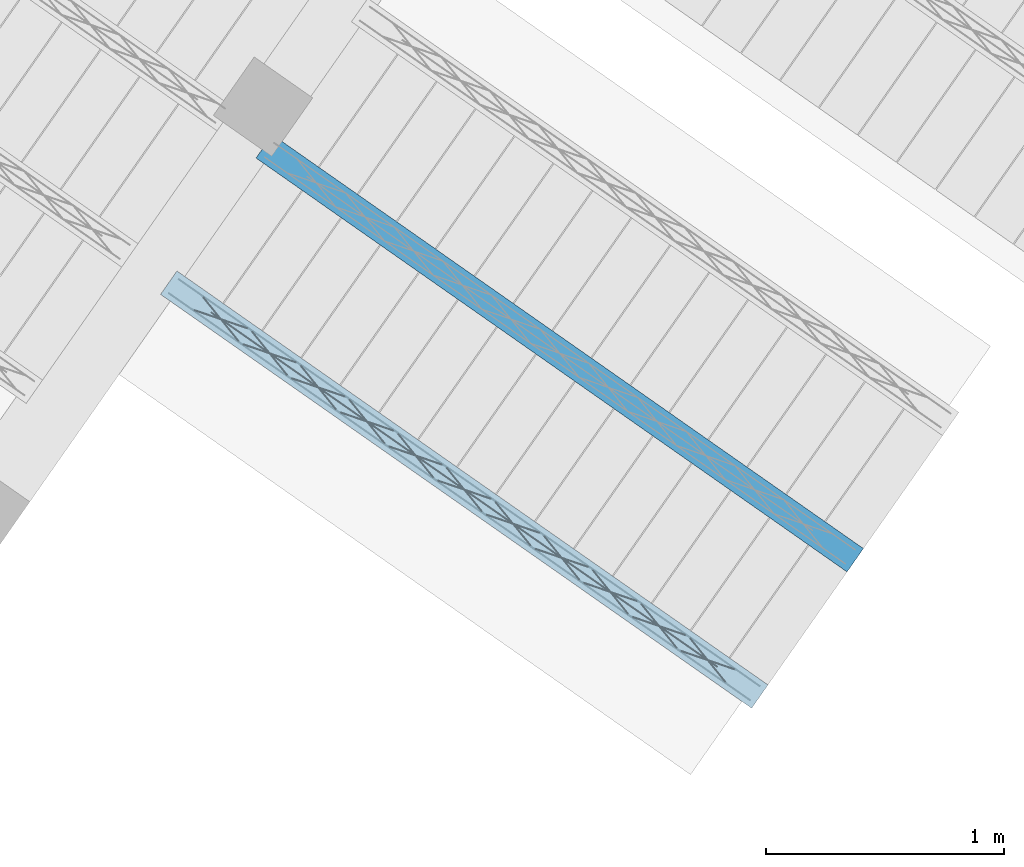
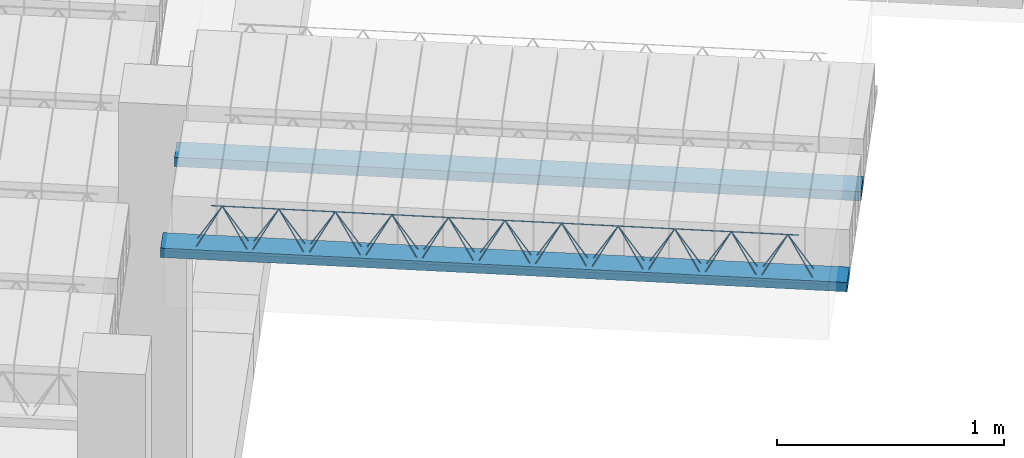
# One storey, part 5 of 80: 2 beams.
"""IFC2X3 building model written with IfcOpenShell, lengths in metres."""

from ifc_helpers import new_model, entity, si_unit, converted_unit, derived_unit, direction, frame, frame_2d, origin, origin_2d_with_axis, place, context, subcontext, project, spatial, rectangle, circle, extrude, material, type_object, element, save


model = new_model("IFC2X3")

# Units and contexts
model_context = context("Model", 3, precision=1e-05, world=origin(), true_north=direction((6.123031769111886e-17, 1.0)))
body_context = subcontext(model_context, "Body", "Model", "MODEL_VIEW")
ifc_project = project(units=[si_unit("LENGTHUNIT", "METRE"), si_unit("AREAUNIT", "SQUARE_METRE"), si_unit("VOLUMEUNIT", "CUBIC_METRE"), converted_unit("PLANEANGLEUNIT", "DEGREE", entity("IfcPlaneAngleMeasure", 0.017453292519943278), si_unit("PLANEANGLEUNIT", "RADIAN"), dimensions=[0, 0, 0, 0, 0, 0, 0]), si_unit("MASSUNIT", "GRAM", prefix="KILO"), derived_unit("MASSDENSITYUNIT", [(si_unit("MASSUNIT", "GRAM", prefix="KILO"), 1), (si_unit("LENGTHUNIT", "METRE"), -3)]), derived_unit("IONCONCENTRATIONUNIT", [(si_unit("MASSUNIT", "GRAM", prefix="KILO"), 1), (si_unit("LENGTHUNIT", "METRE"), -3)]), derived_unit("MOMENTOFINERTIAUNIT", [(si_unit("LENGTHUNIT", "METRE"), 4)]), si_unit("TIMEUNIT", "SECOND"), si_unit("FREQUENCYUNIT", "HERTZ"), si_unit("THERMODYNAMICTEMPERATUREUNIT", "DEGREE_CELSIUS"), derived_unit("THERMALTRANSMITTANCEUNIT", [(si_unit("MASSUNIT", "GRAM", prefix="KILO"), 1), (si_unit("THERMODYNAMICTEMPERATUREUNIT", "KELVIN"), -1), (si_unit("TIMEUNIT", "SECOND"), -3)]), derived_unit("THERMALCONDUCTANCEUNIT", [(si_unit("MASSUNIT", "GRAM", prefix="KILO"), 1), (si_unit("THERMODYNAMICTEMPERATUREUNIT", "KELVIN"), -1), (si_unit("TIMEUNIT", "SECOND"), -3), (si_unit("LENGTHUNIT", "METRE"), 1)]), derived_unit("VOLUMETRICFLOWRATEUNIT", [(si_unit("LENGTHUNIT", "METRE", prefix="DECI"), 3), (si_unit("TIMEUNIT", "SECOND"), -1)]), derived_unit("MASSFLOWRATEUNIT", [(si_unit("MASSUNIT", "GRAM", prefix="KILO"), 1), (si_unit("TIMEUNIT", "SECOND"), -1)]), derived_unit("ROTATIONALFREQUENCYUNIT", [(si_unit("TIMEUNIT", "SECOND"), -1)]), si_unit("ELECTRICCURRENTUNIT", "AMPERE"), si_unit("ELECTRICVOLTAGEUNIT", "VOLT"), si_unit("POWERUNIT", "WATT"), si_unit("FORCEUNIT", "NEWTON", prefix="KILO"), si_unit("ILLUMINANCEUNIT", "LUX"), si_unit("LUMINOUSFLUXUNIT", "LUMEN"), si_unit("LUMINOUSINTENSITYUNIT", "CANDELA"), si_unit("ENERGYUNIT", "JOULE"), derived_unit("USERDEFINED", [(si_unit("MASSUNIT", "GRAM", prefix="KILO"), -1), (si_unit("LENGTHUNIT", "METRE"), -2), (si_unit("TIMEUNIT", "SECOND"), 3), (si_unit("LUMINOUSFLUXUNIT", "LUMEN"), 1)]), derived_unit("USERDEFINED", [(si_unit("MASSUNIT", "GRAM", prefix="KILO"), 1), (si_unit("TIMEUNIT", "SECOND"), -3), (si_unit("LENGTHUNIT", "METRE"), 3), (si_unit("ELECTRICCURRENTUNIT", "AMPERE"), -2)]), derived_unit("SOUNDPOWERUNIT", [(si_unit("MASSUNIT", "GRAM", prefix="KILO"), 1), (si_unit("TIMEUNIT", "SECOND"), -3), (si_unit("LENGTHUNIT", "METRE"), 2)]), derived_unit("SOUNDPRESSUREUNIT", [(si_unit("MASSUNIT", "GRAM", prefix="KILO"), 1), (si_unit("LENGTHUNIT", "METRE"), -1), (si_unit("TIMEUNIT", "SECOND"), -2)]), derived_unit("LINEARVELOCITYUNIT", [(si_unit("LENGTHUNIT", "METRE"), 1), (si_unit("TIMEUNIT", "SECOND"), -1)]), si_unit("PRESSUREUNIT", "PASCAL"), derived_unit("USERDEFINED", [(si_unit("MASSUNIT", "GRAM", prefix="KILO"), 1), (si_unit("LENGTHUNIT", "METRE"), -2), (si_unit("TIMEUNIT", "SECOND"), -2)]), derived_unit("LINEARFORCEUNIT", [(si_unit("MASSUNIT", "GRAM", prefix="KILO"), 1), (si_unit("TIMEUNIT", "SECOND"), -2)]), derived_unit("PLANARFORCEUNIT", [(si_unit("MASSUNIT", "GRAM", prefix="KILO"), 1), (si_unit("LENGTHUNIT", "METRE"), -1), (si_unit("TIMEUNIT", "SECOND"), -2)]), derived_unit("SPECIFICHEATCAPACITYUNIT", [(si_unit("THERMODYNAMICTEMPERATUREUNIT", "KELVIN"), -1), (si_unit("LENGTHUNIT", "METRE"), 2), (si_unit("TIMEUNIT", "SECOND"), -2)]), derived_unit("HEATFLUXDENSITYUNIT", [(si_unit("MASSUNIT", "GRAM", prefix="KILO"), 1), (si_unit("TIMEUNIT", "SECOND"), -3)]), derived_unit("HEATINGVALUEUNIT", [(si_unit("LENGTHUNIT", "METRE"), 2), (si_unit("TIMEUNIT", "SECOND"), -2)]), derived_unit("VAPORPERMEABILITYUNIT", [(si_unit("LENGTHUNIT", "METRE"), -1), (si_unit("TIMEUNIT", "SECOND"), 1)]), derived_unit("DYNAMICVISCOSITYUNIT", [(si_unit("MASSUNIT", "GRAM", prefix="KILO"), 1), (si_unit("TIMEUNIT", "SECOND"), -1), (si_unit("LENGTHUNIT", "METRE"), -1)]), derived_unit("THERMALEXPANSIONCOEFFICIENTUNIT", [(si_unit("THERMODYNAMICTEMPERATUREUNIT", "KELVIN"), -1)]), derived_unit("MODULUSOFELASTICITYUNIT", [(si_unit("MASSUNIT", "GRAM", prefix="KILO"), 1), (si_unit("LENGTHUNIT", "METRE"), -1), (si_unit("TIMEUNIT", "SECOND"), -2)]), derived_unit("ISOTHERMALMOISTURECAPACITYUNIT", [(si_unit("MASSUNIT", "GRAM", prefix="KILO"), -1), (si_unit("LENGTHUNIT", "METRE"), 3)]), derived_unit("MOISTUREDIFFUSIVITYUNIT", [(si_unit("TIMEUNIT", "SECOND"), -1), (si_unit("LENGTHUNIT", "METRE"), 2)]), derived_unit("MASSPERLENGTHUNIT", [(si_unit("MASSUNIT", "GRAM", prefix="KILO"), 1), (si_unit("LENGTHUNIT", "METRE"), -1)]), derived_unit("THERMALRESISTANCEUNIT", [(si_unit("MASSUNIT", "GRAM", prefix="KILO"), -1), (si_unit("TIMEUNIT", "SECOND"), 3), (si_unit("THERMODYNAMICTEMPERATUREUNIT", "KELVIN"), 1)]), derived_unit("ACCELERATIONUNIT", [(si_unit("LENGTHUNIT", "METRE"), 1), (si_unit("TIMEUNIT", "SECOND"), -2)]), derived_unit("ANGULARVELOCITYUNIT", [(si_unit("TIMEUNIT", "SECOND"), -1), (si_unit("PLANEANGLEUNIT", "RADIAN"), 1)]), derived_unit("LINEARSTIFFNESSUNIT", [(si_unit("MASSUNIT", "GRAM", prefix="KILO"), 1), (si_unit("TIMEUNIT", "SECOND"), -2)]), derived_unit("WARPINGCONSTANTUNIT", [(si_unit("LENGTHUNIT", "METRE"), 6)]), derived_unit("LINEARMOMENTUNIT", [(si_unit("MASSUNIT", "GRAM", prefix="KILO"), 1), (si_unit("LENGTHUNIT", "METRE"), 1), (si_unit("TIMEUNIT", "SECOND"), -2)]), derived_unit("TORQUEUNIT", [(si_unit("MASSUNIT", "GRAM", prefix="KILO"), 1), (si_unit("LENGTHUNIT", "METRE"), 2), (si_unit("TIMEUNIT", "SECOND"), -2)])], contexts=[model_context])

# Site, building, storey
site_placement = place(None, origin())
site = spatial("IfcSite", under=ifc_project, at=site_placement, Name="Default", CompositionType="ELEMENT")
building_placement = place(site_placement, origin())
building = spatial("IfcBuilding", under=site, at=building_placement, CompositionType="ELEMENT")
storey_placement = place(building_placement, frame((0.0, 0.0, 95.94)))
storey = spatial("IfcBuildingStorey", under=building, at=storey_placement, Name="PB", CompositionType="ELEMENT", Elevation=95.94)

# Beams
beam_type = type_object("IfcBeamType", Name="Vigueta 1 (Paño 13) (Mf = 11.99)", PredefinedType="JOIST")
beam_1_placement = place(storey_placement, origin())
element("IfcBeam", 1, at=beam_1_placement, inside=storey, type_object=beam_type, Name="Vigueta 1 (Paño 13) (Mf = 11.99)", ObjectType="Mf = 11.99", context=body_context, shape_type="SweptSolid", body=[
    extrude(rectangle(XDim=3.0351844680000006, YDim=0.12000000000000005, at=frame_2d((-1.1102230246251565e-16, 0.0), x_axis=(1.0, 0.0))), frame((2.991282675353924, 0.6525686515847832, 3.2799999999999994), z_axis=(0.0, 0.0, 1.0), x_axis=(0.8191520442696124, -0.5735764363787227, 0.0)), (0.0, 0.0, 1.0), 0.04999999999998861),
    extrude(circle(Radius=0.0025, at=origin_2d_with_axis()), frame((4.194113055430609, -0.2336101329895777, 3.3049999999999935), z_axis=(-0.8191520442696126, 0.5735764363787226, 0.0), x_axis=(-0.5735764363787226, -0.8191520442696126, 0.0)), (0.0, 0.0, 1.0), 2.9871844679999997),
    extrude(circle(Radius=0.0025, at=origin_2d_with_axis()), frame((1.9263850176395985, 1.398218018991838, 3.5299999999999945), z_axis=(0.8191520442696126, -0.5735764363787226, 0.0), x_axis=(-0.5735764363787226, -0.8191520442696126, 0.0)), (0.0, 0.0, 1.0), 2.5999999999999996),
    extrude(circle(Radius=0.0025, at=origin_2d_with_axis()), frame((4.096967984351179, -0.16558842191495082, 3.3049999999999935), z_axis=(-0.3145304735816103, 0.389334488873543, 0.8657304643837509), x_axis=(-0.7778747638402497, -0.6284193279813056, 0.0)), (0.0, 0.0, 1.0), 0.2598961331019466),
    extrude(circle(Radius=0.0025, at=origin_2d_with_axis()), frame((3.892179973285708, -0.02219431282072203, 3.3049999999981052), z_axis=(0.47343050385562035, -0.1624017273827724, 0.8657304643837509), x_axis=(-0.3244721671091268, -0.9458952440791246, 0.0)), (0.0, 0.0, 1.0), 0.25989613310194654),
    extrude(circle(Radius=0.0025, at=origin_2d_with_axis()), frame((3.892179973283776, -0.02219431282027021, 3.3049999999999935), z_axis=(-0.3145304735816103, 0.389334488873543, 0.8657304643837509), x_axis=(-0.7778747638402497, -0.6284193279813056, 0.0)), (0.0, 0.0, 1.0), 0.2598961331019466),
    extrude(circle(Radius=0.0025, at=origin_2d_with_axis()), frame((3.687391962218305, 0.12119979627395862, 3.3049999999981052), z_axis=(0.47343050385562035, -0.1624017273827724, 0.8657304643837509), x_axis=(-0.3244721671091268, -0.9458952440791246, 0.0)), (0.0, 0.0, 1.0), 0.25989613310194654),
    extrude(circle(Radius=0.0025, at=origin_2d_with_axis()), frame((3.687391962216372, 0.12119979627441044, 3.3049999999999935), z_axis=(-0.3145304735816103, 0.389334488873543, 0.8657304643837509), x_axis=(-0.7778747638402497, -0.6284193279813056, 0.0)), (0.0, 0.0, 1.0), 0.2598961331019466),
    extrude(circle(Radius=0.0025, at=origin_2d_with_axis()), frame((3.482603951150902, 0.26459390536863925, 3.3049999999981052), z_axis=(0.47343050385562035, -0.1624017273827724, 0.8657304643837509), x_axis=(-0.3244721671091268, -0.9458952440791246, 0.0)), (0.0, 0.0, 1.0), 0.25989613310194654),
    extrude(circle(Radius=0.0025, at=origin_2d_with_axis()), frame((3.482603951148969, 0.2645939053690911, 3.3049999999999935), z_axis=(-0.3145304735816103, 0.389334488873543, 0.8657304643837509), x_axis=(-0.7778747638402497, -0.6284193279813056, 0.0)), (0.0, 0.0, 1.0), 0.2598961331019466),
    extrude(circle(Radius=0.0025, at=origin_2d_with_axis()), frame((3.2778159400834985, 0.40798801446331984, 3.3049999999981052), z_axis=(0.47343050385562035, -0.1624017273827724, 0.8657304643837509), x_axis=(-0.3244721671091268, -0.9458952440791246, 0.0)), (0.0, 0.0, 1.0), 0.25989613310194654),
    extrude(circle(Radius=0.0025, at=origin_2d_with_axis()), frame((3.2778159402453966, 0.40798801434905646, 3.3049999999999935), z_axis=(-0.3145304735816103, 0.389334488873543, 0.8657304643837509), x_axis=(-0.7778747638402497, -0.6284193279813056, 0.0)), (0.0, 0.0, 1.0), 0.2598961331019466),
    extrude(circle(Radius=0.0025, at=origin_2d_with_axis()), frame((3.073027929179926, 0.5513821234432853, 3.3049999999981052), z_axis=(0.47343050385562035, -0.1624017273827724, 0.8657304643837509), x_axis=(-0.3244721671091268, -0.9458952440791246, 0.0)), (0.0, 0.0, 1.0), 0.25989613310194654),
    extrude(circle(Radius=0.0025, at=origin_2d_with_axis()), frame((3.0730279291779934, 0.5513821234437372, 3.3049999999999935), z_axis=(-0.3145304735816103, 0.389334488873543, 0.8657304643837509), x_axis=(-0.7778747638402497, -0.6284193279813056, 0.0)), (0.0, 0.0, 1.0), 0.2598961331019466),
    extrude(circle(Radius=0.0025, at=origin_2d_with_axis()), frame((2.8682399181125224, 0.6947762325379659, 3.3049999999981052), z_axis=(0.47343050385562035, -0.1624017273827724, 0.8657304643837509), x_axis=(-0.3244721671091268, -0.9458952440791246, 0.0)), (0.0, 0.0, 1.0), 0.25989613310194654),
    extrude(circle(Radius=0.0025, at=origin_2d_with_axis()), frame((2.86823991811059, 0.6947762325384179, 3.3049999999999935), z_axis=(-0.3145304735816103, 0.389334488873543, 0.8657304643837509), x_axis=(-0.7778747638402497, -0.6284193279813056, 0.0)), (0.0, 0.0, 1.0), 0.2598961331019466),
    extrude(circle(Radius=0.0025, at=origin_2d_with_axis()), frame((2.6634519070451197, 0.8381703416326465, 3.3049999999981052), z_axis=(0.47343050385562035, -0.1624017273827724, 0.8657304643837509), x_axis=(-0.3244721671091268, -0.9458952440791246, 0.0)), (0.0, 0.0, 1.0), 0.25989613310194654),
    extrude(circle(Radius=0.0025, at=origin_2d_with_axis()), frame((2.663451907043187, 0.8381703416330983, 3.3049999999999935), z_axis=(-0.3145304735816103, 0.389334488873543, 0.8657304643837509), x_axis=(-0.7778747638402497, -0.6284193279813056, 0.0)), (0.0, 0.0, 1.0), 0.2598961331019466),
    extrude(circle(Radius=0.0025, at=origin_2d_with_axis()), frame((2.4586638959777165, 0.9815644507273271, 3.3049999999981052), z_axis=(0.47343050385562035, -0.1624017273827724, 0.8657304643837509), x_axis=(-0.3244721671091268, -0.9458952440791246, 0.0)), (0.0, 0.0, 1.0), 0.25989613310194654),
    extrude(circle(Radius=0.0025, at=origin_2d_with_axis()), frame((2.458663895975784, 0.9815644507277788, 3.3049999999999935), z_axis=(-0.3145304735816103, 0.389334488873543, 0.8657304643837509), x_axis=(-0.7778747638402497, -0.6284193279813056, 0.0)), (0.0, 0.0, 1.0), 0.2598961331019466),
    extrude(circle(Radius=0.0025, at=origin_2d_with_axis()), frame((2.2538758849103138, 1.1249585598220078, 3.3049999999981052), z_axis=(0.47343050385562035, -0.1624017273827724, 0.8657304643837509), x_axis=(-0.3244721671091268, -0.9458952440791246, 0.0)), (0.0, 0.0, 1.0), 0.25989613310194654),
    extrude(circle(Radius=0.0025, at=origin_2d_with_axis()), frame((2.253875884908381, 1.1249585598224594, 3.3049999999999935), z_axis=(-0.3145304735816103, 0.389334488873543, 0.8657304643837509), x_axis=(-0.7778747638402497, -0.6284193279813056, 0.0)), (0.0, 0.0, 1.0), 0.2598961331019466),
    extrude(circle(Radius=0.0025, at=origin_2d_with_axis()), frame((2.0490878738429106, 1.2683526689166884, 3.3049999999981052), z_axis=(0.47343050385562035, -0.1624017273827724, 0.8657304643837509), x_axis=(-0.3244721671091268, -0.9458952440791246, 0.0)), (0.0, 0.0, 1.0), 0.25989613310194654),
    extrude(circle(Radius=0.0025, at=origin_2d_with_axis()), frame((2.049087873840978, 1.2683526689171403, 3.3049999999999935), z_axis=(-0.3145304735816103, 0.389334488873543, 0.8657304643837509), x_axis=(-0.7778747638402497, -0.6284193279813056, 0.0)), (0.0, 0.0, 1.0), 0.2598961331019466),
    extrude(circle(Radius=0.0025, at=origin_2d_with_axis()), frame((1.8442998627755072, 1.411746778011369, 3.3049999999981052), z_axis=(0.47343050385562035, -0.1624017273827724, 0.8657304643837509), x_axis=(-0.3244721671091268, -0.9458952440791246, 0.0)), (0.0, 0.0, 1.0), 0.25989613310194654),
    extrude(circle(Radius=0.0025, at=origin_2d_with_axis()), frame((4.235410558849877, -0.17463118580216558, 3.3049999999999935), z_axis=(-0.8191520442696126, 0.5735764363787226, 0.0), x_axis=(-0.5735764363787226, -0.8191520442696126, 0.0)), (0.0, 0.0, 1.0), 2.9871844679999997),
    extrude(circle(Radius=0.0025, at=origin_2d_with_axis()), frame((4.138265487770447, -0.10660947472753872, 3.3049999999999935), z_axis=(-0.47343050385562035, 0.1624017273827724, 0.8657304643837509), x_axis=(-0.3244721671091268, -0.9458952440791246, 0.0)), (0.0, 0.0, 1.0), 0.25989613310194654),
    extrude(circle(Radius=0.0025, at=origin_2d_with_axis()), frame((3.933477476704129, 0.036784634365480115, 3.3049999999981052), z_axis=(0.3145304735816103, -0.389334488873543, 0.8657304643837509), x_axis=(-0.7778747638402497, -0.6284193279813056, 0.0)), (0.0, 0.0, 1.0), 0.2598961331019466),
    extrude(circle(Radius=0.0025, at=origin_2d_with_axis()), frame((3.9334774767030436, 0.03678463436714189, 3.3049999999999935), z_axis=(-0.47343050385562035, 0.1624017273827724, 0.8657304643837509), x_axis=(-0.3244721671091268, -0.9458952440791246, 0.0)), (0.0, 0.0, 1.0), 0.25989613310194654),
    extrude(circle(Radius=0.0025, at=origin_2d_with_axis()), frame((3.7286894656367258, 0.18017874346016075, 3.3049999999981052), z_axis=(0.3145304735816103, -0.389334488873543, 0.8657304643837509), x_axis=(-0.7778747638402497, -0.6284193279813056, 0.0)), (0.0, 0.0, 1.0), 0.2598961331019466),
    extrude(circle(Radius=0.0025, at=origin_2d_with_axis()), frame((3.728689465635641, 0.18017874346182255, 3.3049999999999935), z_axis=(-0.47343050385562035, 0.1624017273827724, 0.8657304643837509), x_axis=(-0.3244721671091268, -0.9458952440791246, 0.0)), (0.0, 0.0, 1.0), 0.25989613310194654),
    extrude(circle(Radius=0.0025, at=origin_2d_with_axis()), frame((3.523901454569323, 0.32357285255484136, 3.3049999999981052), z_axis=(0.3145304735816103, -0.389334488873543, 0.8657304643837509), x_axis=(-0.7778747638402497, -0.6284193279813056, 0.0)), (0.0, 0.0, 1.0), 0.2598961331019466),
    extrude(circle(Radius=0.0025, at=origin_2d_with_axis()), frame((3.5239014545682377, 0.3235728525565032, 3.3049999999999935), z_axis=(-0.47343050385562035, 0.1624017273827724, 0.8657304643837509), x_axis=(-0.3244721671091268, -0.9458952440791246, 0.0)), (0.0, 0.0, 1.0), 0.25989613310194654),
    extrude(circle(Radius=0.0025, at=origin_2d_with_axis()), frame((3.3191134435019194, 0.466966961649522, 3.3049999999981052), z_axis=(0.3145304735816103, -0.389334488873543, 0.8657304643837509), x_axis=(-0.7778747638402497, -0.6284193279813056, 0.0)), (0.0, 0.0, 1.0), 0.2598961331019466),
    extrude(circle(Radius=0.0025, at=origin_2d_with_axis()), frame((3.3191134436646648, 0.4669669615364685, 3.3049999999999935), z_axis=(-0.47343050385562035, 0.1624017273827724, 0.8657304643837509), x_axis=(-0.3244721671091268, -0.9458952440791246, 0.0)), (0.0, 0.0, 1.0), 0.25989613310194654),
    extrude(circle(Radius=0.0025, at=origin_2d_with_axis()), frame((3.114325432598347, 0.6103610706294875, 3.3049999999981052), z_axis=(0.3145304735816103, -0.389334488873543, 0.8657304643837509), x_axis=(-0.7778747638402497, -0.6284193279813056, 0.0)), (0.0, 0.0, 1.0), 0.2598961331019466),
    extrude(circle(Radius=0.0025, at=origin_2d_with_axis()), frame((3.114325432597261, 0.6103610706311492, 3.3049999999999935), z_axis=(-0.47343050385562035, 0.1624017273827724, 0.8657304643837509), x_axis=(-0.3244721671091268, -0.9458952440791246, 0.0)), (0.0, 0.0, 1.0), 0.25989613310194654),
    extrude(circle(Radius=0.0025, at=origin_2d_with_axis()), frame((2.9095374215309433, 0.7537551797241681, 3.3049999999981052), z_axis=(0.3145304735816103, -0.389334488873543, 0.8657304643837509), x_axis=(-0.7778747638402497, -0.6284193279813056, 0.0)), (0.0, 0.0, 1.0), 0.2598961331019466),
    extrude(circle(Radius=0.0025, at=origin_2d_with_axis()), frame((2.9095374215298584, 0.75375517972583, 3.3049999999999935), z_axis=(-0.47343050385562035, 0.1624017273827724, 0.8657304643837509), x_axis=(-0.3244721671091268, -0.9458952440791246, 0.0)), (0.0, 0.0, 1.0), 0.25989613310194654),
    extrude(circle(Radius=0.0025, at=origin_2d_with_axis()), frame((2.7047494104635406, 0.8971492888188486, 3.3049999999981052), z_axis=(0.3145304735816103, -0.389334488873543, 0.8657304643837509), x_axis=(-0.7778747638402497, -0.6284193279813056, 0.0)), (0.0, 0.0, 1.0), 0.2598961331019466),
    extrude(circle(Radius=0.0025, at=origin_2d_with_axis()), frame((2.704749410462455, 0.8971492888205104, 3.3049999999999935), z_axis=(-0.47343050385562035, 0.1624017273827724, 0.8657304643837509), x_axis=(-0.3244721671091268, -0.9458952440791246, 0.0)), (0.0, 0.0, 1.0), 0.25989613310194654),
    extrude(circle(Radius=0.0025, at=origin_2d_with_axis()), frame((2.4999613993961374, 1.0405433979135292, 3.3049999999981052), z_axis=(0.3145304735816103, -0.389334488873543, 0.8657304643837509), x_axis=(-0.7778747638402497, -0.6284193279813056, 0.0)), (0.0, 0.0, 1.0), 0.2598961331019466),
    extrude(circle(Radius=0.0025, at=origin_2d_with_axis()), frame((2.4999613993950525, 1.0405433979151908, 3.3049999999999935), z_axis=(-0.47343050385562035, 0.1624017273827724, 0.8657304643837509), x_axis=(-0.3244721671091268, -0.9458952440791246, 0.0)), (0.0, 0.0, 1.0), 0.25989613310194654),
    extrude(circle(Radius=0.0025, at=origin_2d_with_axis()), frame((2.2951733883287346, 1.1839375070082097, 3.3049999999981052), z_axis=(0.3145304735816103, -0.389334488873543, 0.8657304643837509), x_axis=(-0.7778747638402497, -0.6284193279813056, 0.0)), (0.0, 0.0, 1.0), 0.2598961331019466),
    extrude(circle(Radius=0.0025, at=origin_2d_with_axis()), frame((2.2951733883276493, 1.1839375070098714, 3.3049999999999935), z_axis=(-0.47343050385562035, 0.1624017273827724, 0.8657304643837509), x_axis=(-0.3244721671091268, -0.9458952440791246, 0.0)), (0.0, 0.0, 1.0), 0.25989613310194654),
    extrude(circle(Radius=0.0025, at=origin_2d_with_axis()), frame((2.090385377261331, 1.3273316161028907, 3.3049999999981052), z_axis=(0.3145304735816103, -0.389334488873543, 0.8657304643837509), x_axis=(-0.7778747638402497, -0.6284193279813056, 0.0)), (0.0, 0.0, 1.0), 0.2598961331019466),
    extrude(circle(Radius=0.0025, at=origin_2d_with_axis()), frame((2.090385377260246, 1.3273316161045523, 3.3049999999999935), z_axis=(-0.47343050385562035, 0.1624017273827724, 0.8657304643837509), x_axis=(-0.3244721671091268, -0.9458952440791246, 0.0)), (0.0, 0.0, 1.0), 0.25989613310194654),
    extrude(circle(Radius=0.0025, at=origin_2d_with_axis()), frame((1.8855973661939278, 1.4707257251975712, 3.3049999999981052), z_axis=(0.3145304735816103, -0.389334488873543, 0.8657304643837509), x_axis=(-0.7778747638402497, -0.6284193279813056, 0.0)), (0.0, 0.0, 1.0), 0.2598961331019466),
])
ifc_material = material(Name="Hormigón armado")
beam_2_placement = place(storey_placement, origin())
element("IfcBeam", 2, at=beam_2_placement, inside=storey, material=ifc_material, Name="238602", context=body_context, shape_type="SweptSolid", body=[
    extrude(rectangle(XDim=0.04999999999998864, YDim=0.12000000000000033, at=origin_2d_with_axis()), frame((2.149647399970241, 2.0964302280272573, 3.3049999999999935), z_axis=(0.819152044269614, -0.5735764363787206, 0.0), x_axis=(0.0, 0.0, -1.0)), (0.0, 0.0, 1.0), 3.035184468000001),
])

save(model, "model.ifc")
